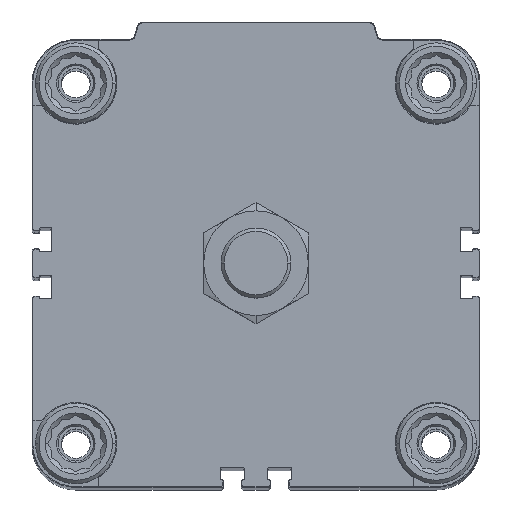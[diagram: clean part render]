
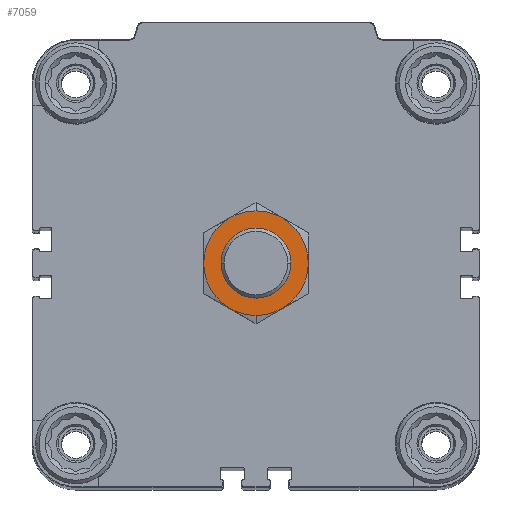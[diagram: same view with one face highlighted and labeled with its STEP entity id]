
A CAD part, top view. The second image highlights one B-rep face of the part: STEP entity #7059.
In plain terms, the highlighted planar face has unit normal (0, 0, 1).
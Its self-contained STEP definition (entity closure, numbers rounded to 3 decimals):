
#834 = VERTEX_POINT ( 'NONE', #16856 ) ;
#1442 = AXIS2_PLACEMENT_3D ( 'NONE', #18657, #9583, #18776 ) ;
#1810 = DIRECTION ( 'NONE',  ( 0., -1., 0. ) ) ;
#2172 = VERTEX_POINT ( 'NONE', #12902 ) ;
#2341 = VERTEX_POINT ( 'NONE', #9393 ) ;
#2559 = EDGE_CURVE ( 'NONE', #17691, #834, #14466, .T. ) ;
#2870 = DIRECTION ( 'NONE',  ( 0., -1., 0. ) ) ;
#3241 = AXIS2_PLACEMENT_3D ( 'NONE', #20799, #17077, #10088 ) ;
#3438 = CARTESIAN_POINT ( 'NONE',  ( 0., 0., 27. ) ) ;
#3989 = ORIENTED_EDGE ( 'NONE', *, *, #22322, .F. ) ;
#4362 = ORIENTED_EDGE ( 'NONE', *, *, #14085, .F. ) ;
#5013 = ORIENTED_EDGE ( 'NONE', *, *, #17065, .T. ) ;
#5016 = DIRECTION ( 'NONE',  ( 0., -1., 0. ) ) ;
#6523 = FACE_BOUND ( 'NONE', #21669, .T. ) ;
#6683 = DIRECTION ( 'NONE',  ( 0., 0., -1. ) ) ;
#7059 = ADVANCED_FACE ( 'NONE', ( #9908, #6523 ), #11662, .F. ) ;
#8042 = CARTESIAN_POINT ( 'NONE',  ( 0., 0., 27. ) ) ;
#8123 = CARTESIAN_POINT ( 'NONE',  ( 0., -10., 27. ) ) ;
#9393 = CARTESIAN_POINT ( 'NONE',  ( 0., -14.95, 27. ) ) ;
#9583 = DIRECTION ( 'NONE',  ( 0., 0., -1. ) ) ;
#9908 = FACE_OUTER_BOUND ( 'NONE', #20420, .T. ) ;
#10088 = DIRECTION ( 'NONE',  ( 0., -1., 0. ) ) ;
#10623 = CIRCLE ( 'NONE', #13593, 14.95 ) ;
#11576 = AXIS2_PLACEMENT_3D ( 'NONE', #3438, #6683, #1810 ) ;
#11662 = PLANE ( 'NONE',  #20685 ) ;
#12902 = CARTESIAN_POINT ( 'NONE',  ( 0., 14.95, 27. ) ) ;
#12909 = ORIENTED_EDGE ( 'NONE', *, *, #2559, .T. ) ;
#13593 = AXIS2_PLACEMENT_3D ( 'NONE', #22196, #18820, #2870 ) ;
#13640 = DIRECTION ( 'NONE',  ( 0., 0., -1. ) ) ;
#13674 = CIRCLE ( 'NONE', #3241, 14.95 ) ;
#14085 = EDGE_CURVE ( 'NONE', #2341, #2172, #10623, .T. ) ;
#14466 = CIRCLE ( 'NONE', #1442, 10. ) ;
#16407 = CIRCLE ( 'NONE', #11576, 10. ) ;
#16856 = CARTESIAN_POINT ( 'NONE',  ( 0., 10., 27. ) ) ;
#17065 = EDGE_CURVE ( 'NONE', #834, #17691, #16407, .T. ) ;
#17077 = DIRECTION ( 'NONE',  ( 0., 0., -1. ) ) ;
#17691 = VERTEX_POINT ( 'NONE', #8123 ) ;
#18657 = CARTESIAN_POINT ( 'NONE',  ( 0., 0., 27. ) ) ;
#18776 = DIRECTION ( 'NONE',  ( 0., -1., 0. ) ) ;
#18820 = DIRECTION ( 'NONE',  ( 0., 0., -1. ) ) ;
#20420 = EDGE_LOOP ( 'NONE', ( #4362, #3989 ) ) ;
#20685 = AXIS2_PLACEMENT_3D ( 'NONE', #8042, #13640, #5016 ) ;
#20799 = CARTESIAN_POINT ( 'NONE',  ( 0., 0., 27. ) ) ;
#21669 = EDGE_LOOP ( 'NONE', ( #5013, #12909 ) ) ;
#22196 = CARTESIAN_POINT ( 'NONE',  ( 0., 0., 27. ) ) ;
#22322 = EDGE_CURVE ( 'NONE', #2172, #2341, #13674, .T. ) ;
